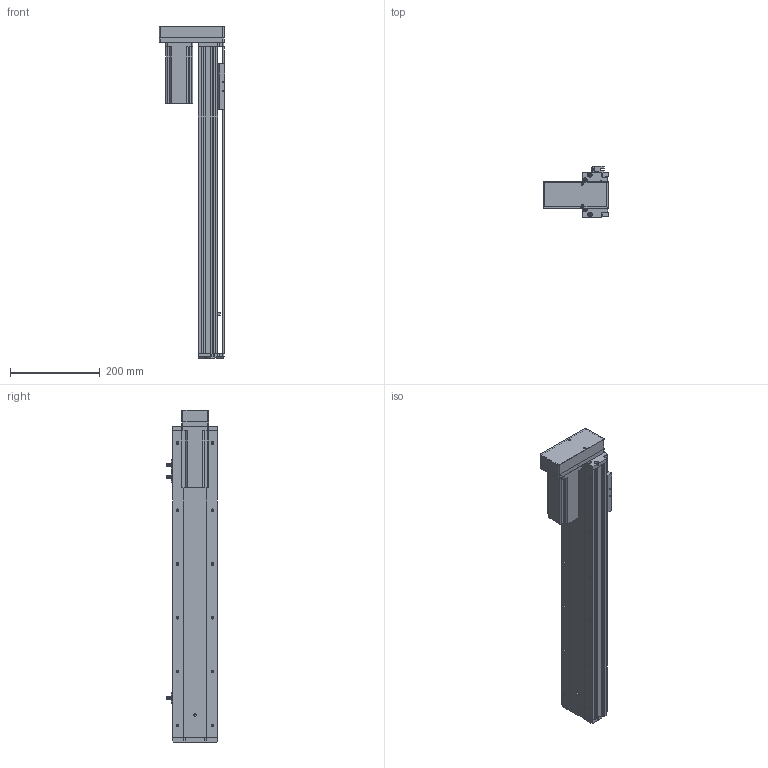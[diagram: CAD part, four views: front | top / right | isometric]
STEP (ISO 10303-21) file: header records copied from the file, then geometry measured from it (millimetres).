
FILE_DESCRIPTION (( 'STEP AP214' ), '1' );
FILE_NAME ('KSD100S-S500-MD-CM.STEP', '2019-08-30T03:26:47', ( '微软用户' ), ( '微软中国' ), 'SwSTEP 2.0', 'SolidWorks 2014', '' );
FILE_SCHEMA (( 'AUTOMOTIVE_DESIGN' ));
Length unit declared in the file: millimetre
Products named in the file (10): 台达ECMA－C20604AS伺服电机; U倰嫖萇EEㄜSX672; 100宽防尘板丝杆500行程; 100遵鎮湛假蚾啣; 100宽滚珠螺姆安装板半封闭; 100遵傷啣; 100宽底板半封闭丝杆500行程; KSD100S-S500-MD-CM; 悵誘欶奻狟殏; 100宽马达安装板连板上下折丝杆同步带
Assembly tree (11 placements, depth 2):
  KSD100S-S500-MD-CM
    100宽底板半封闭丝杆500行程
    100遵傷啣
    100宽滚珠螺姆安装板半封闭
    100遵鎮湛假蚾啣
    100宽防尘板丝杆500行程
    U倰嫖萇EEㄜSX672  x3
    台达ECMA－C20604AS伺服电机
    100宽马达安装板连板上下折丝杆同步带
    悵誘欶奻狟殏
Bounding box: 147 x 113.7 x 740.5 mm (x, y, z)
Volume: 1975784.1 mm3; surface area: 614887.2 mm2
Topology: 12 solids, 12 shells, 1169 faces, 3290 edges, 2095 vertices
Faces by surface type: cylinder 568, plane 486, cone 115
Entity records: 41239 total; most frequent: CARTESIAN_POINT 7524, DIRECTION 5479, ORIENTED_EDGE 5256, EDGE_CURVE 2628, AXIS2_PLACEMENT_3D 1990, VERTEX_POINT 1719, VECTOR 1499, LINE 1499
